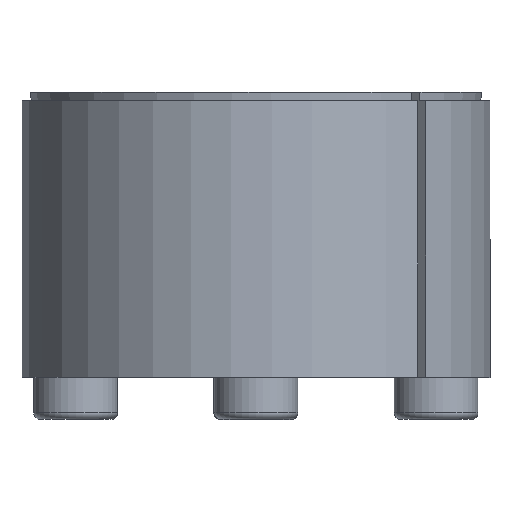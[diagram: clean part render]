
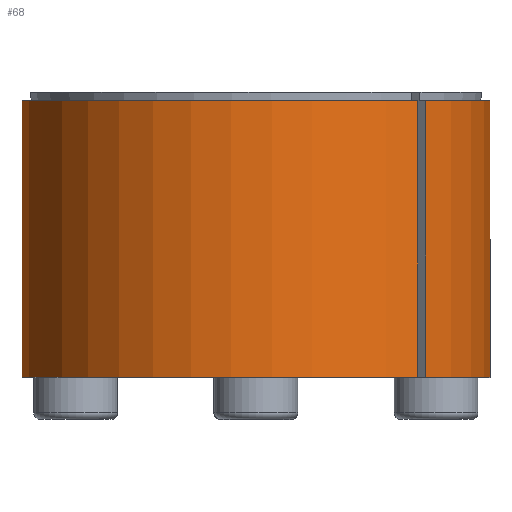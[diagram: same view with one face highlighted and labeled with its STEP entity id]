
A CAD part, top view. The second image highlights one B-rep face of the part: STEP entity #68.
In plain terms, the highlighted cylindrical face has radius 14 mm (diameter 28 mm), a partial arc.
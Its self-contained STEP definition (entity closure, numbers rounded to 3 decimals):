
#68 = ADVANCED_FACE( '', ( #139 ), #140, .T. );
#139 = FACE_OUTER_BOUND( '', #215, .T. );
#140 = CYLINDRICAL_SURFACE( '', #216, 14. );
#215 = EDGE_LOOP( '', ( #338, #339, #340, #341 ) );
#216 = AXIS2_PLACEMENT_3D( '', #342, #343, #344 );
#338 = ORIENTED_EDGE( '', *, *, #493, .T. );
#339 = ORIENTED_EDGE( '', *, *, #485, .T. );
#340 = ORIENTED_EDGE( '', *, *, #480, .T. );
#341 = ORIENTED_EDGE( '', *, *, #494, .T. );
#342 = CARTESIAN_POINT( '', ( 0., -60., 0. ) );
#343 = DIRECTION( '', ( 0., -1., 0. ) );
#344 = DIRECTION( '', ( 0., 0., 1. ) );
#480 = EDGE_CURVE( '', #601, #602, #603, .T. );
#485 = EDGE_CURVE( '', #610, #601, #611, .F. );
#493 = EDGE_CURVE( '', #621, #610, #622, .T. );
#494 = EDGE_CURVE( '', #602, #621, #623, .T. );
#601 = VERTEX_POINT( '', #820 );
#602 = VERTEX_POINT( '', #821 );
#603 = CIRCLE( '', #822, 14. );
#610 = VERTEX_POINT( '', #831 );
#611 = LINE( '', #832, #833 );
#621 = VERTEX_POINT( '', #851 );
#622 = CIRCLE( '', #852, 14. );
#623 = LINE( '', #853, #854 );
#820 = CARTESIAN_POINT( '', ( 10.144, -8.5, 9.649 ) );
#821 = CARTESIAN_POINT( '', ( 9.649, -8.5, 10.144 ) );
#822 = AXIS2_PLACEMENT_3D( '', #950, #951, #952 );
#831 = CARTESIAN_POINT( '', ( 10.144, 8., 9.649 ) );
#832 = CARTESIAN_POINT( '', ( 10.144, -60., 9.649 ) );
#833 = VECTOR( '', #958, 1000. );
#851 = CARTESIAN_POINT( '', ( 9.649, 8., 10.144 ) );
#852 = AXIS2_PLACEMENT_3D( '', #961, #962, #963 );
#853 = CARTESIAN_POINT( '', ( 9.649, -60., 10.144 ) );
#854 = VECTOR( '', #964, 1000. );
#950 = CARTESIAN_POINT( '', ( 0., -8.5, 0. ) );
#951 = DIRECTION( '', ( 0., 1., 0. ) );
#952 = DIRECTION( '', ( 0., 0., 1. ) );
#958 = DIRECTION( '', ( 0., 1., 0. ) );
#961 = CARTESIAN_POINT( '', ( 0., 8., 0. ) );
#962 = DIRECTION( '', ( 0., -1., 0. ) );
#963 = DIRECTION( '', ( 0., 0., -1. ) );
#964 = DIRECTION( '', ( 0., 1., 0. ) );
